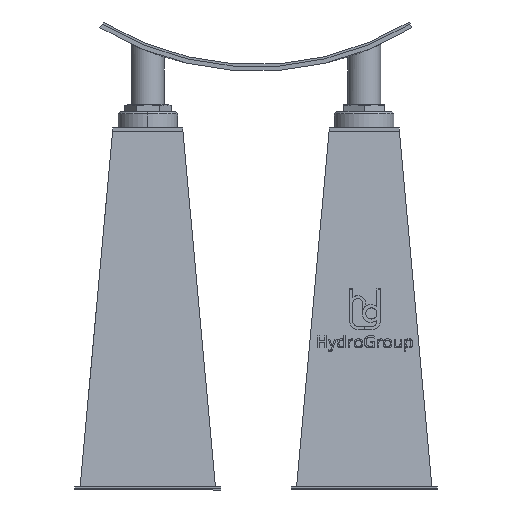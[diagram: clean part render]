
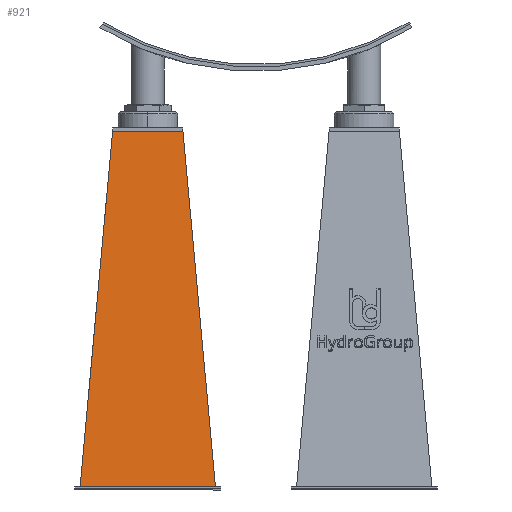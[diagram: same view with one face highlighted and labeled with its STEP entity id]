
A CAD part, front view. The second image highlights one B-rep face of the part: STEP entity #921.
In plain terms, the highlighted planar face has unit normal (0, -0.996, 0.091).
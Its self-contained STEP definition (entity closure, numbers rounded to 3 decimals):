
#921=ADVANCED_FACE('',(#2041),#2042,.T.);
#2041=FACE_OUTER_BOUND('',#3453,.T.);
#2042=PLANE('',#3454);
#3453=EDGE_LOOP('',(#6151,#6152,#6153,#6154));
#3454=AXIS2_PLACEMENT_3D('',#6155,#6156,#6157);
#6151=ORIENTED_EDGE('',*,*,#9121,.T.);
#6152=ORIENTED_EDGE('',*,*,#9138,.F.);
#6153=ORIENTED_EDGE('',*,*,#9108,.T.);
#6154=ORIENTED_EDGE('',*,*,#8868,.T.);
#6155=CARTESIAN_POINT('',(141.126,453.652,230.836));
#6156=DIRECTION('',(0.,-0.996,0.091));
#6157=DIRECTION('',(-1.0,0.,0.));
#8868=EDGE_CURVE('',#10580,#10578,#10581,.F.);
#9108=EDGE_CURVE('',#10894,#10580,#10895,.F.);
#9121=EDGE_CURVE('',#10578,#10916,#10919,.T.);
#9138=EDGE_CURVE('',#10894,#10916,#10940,.T.);
#10578=VERTEX_POINT('',#13334);
#10580=VERTEX_POINT('',#13337);
#10581=LINE('',#13338,#13339);
#10894=VERTEX_POINT('',#13909);
#10895=LINE('',#13910,#13911);
#10916=VERTEX_POINT('',#13942);
#10919=LINE('',#13946,#13947);
#10940=LINE('',#13978,#13979);
#13334=CARTESIAN_POINT('',(78.113,393.627,-426.436));
#13337=CARTESIAN_POINT('',(138.113,453.627,230.564));
#13338=CARTESIAN_POINT('',(138.671,454.185,236.674));
#13339=VECTOR('',#17222,1.);
#13909=CARTESIAN_POINT('',(268.138,453.627,230.564));
#13910=CARTESIAN_POINT('',(172.126,453.627,230.564));
#13911=VECTOR('',#17392,1.);
#13942=CARTESIAN_POINT('',(328.138,393.627,-426.436));
#13946=CARTESIAN_POINT('',(172.126,393.627,-426.436));
#13947=VECTOR('',#17404,1.);
#13978=CARTESIAN_POINT('',(267.58,454.185,236.674));
#13979=VECTOR('',#17415,1.);
#17222=DIRECTION('',(0.091,0.091,0.992));
#17392=DIRECTION('',(1.0,0.,0.));
#17404=DIRECTION('',(1.0,0.,0.));
#17415=DIRECTION('',(0.091,-0.091,-0.992));
